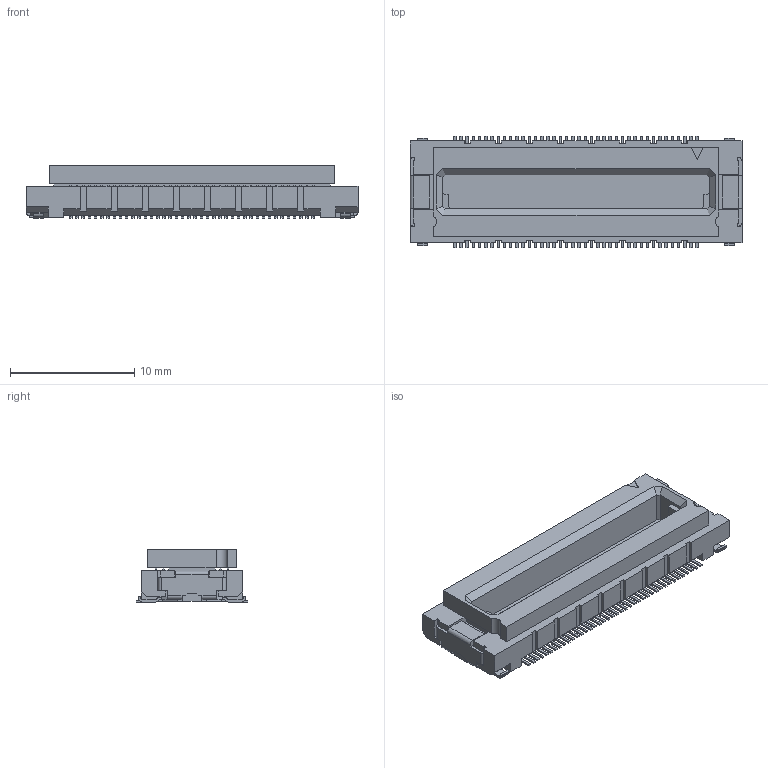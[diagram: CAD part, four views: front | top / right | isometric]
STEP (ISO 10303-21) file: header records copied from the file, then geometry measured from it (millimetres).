
FILE_DESCRIPTION(('Creo Elements/Direct Modeling STEP Export'),'2;1');
FILE_NAME('P39563_DY00-080S.stp','2017-08-10T14:20:39',(''),(''),'Creo Elements/Direct Modeling STEP processor for AP214 (Solid Model)','Creo Elements/Direct Modeling 19.0F 14-Feb-2017 (C) Parametric Technology GmbH','');
FILE_SCHEMA(('AUTOMOTIVE_DESIGN { 1 0 10303 214 1 1 1 1 }'));
Products named in the file (2): DY00-080S
Assembly tree (1 placements, depth 2):
  DY00-080S
    DY00-080S
Bounding box: 26.7 x 9 x 4.2 mm (x, y, z)
Volume: 558.8 mm3; surface area: 1205.1 mm2
Topology: 1 solids, 1 shells, 2493 faces, 6975 edges, 4646 vertices
Faces by surface type: plane 2128, cylinder 365
Entity records: 79351 total; most frequent: CARTESIAN_POINT 14007, ORIENTED_EDGE 13950, DIRECTION 12565, EDGE_CURVE 6975, VECTOR 6157, LINE 6157, VERTEX_POINT 4646, AXIS2_PLACEMENT_3D 3204
